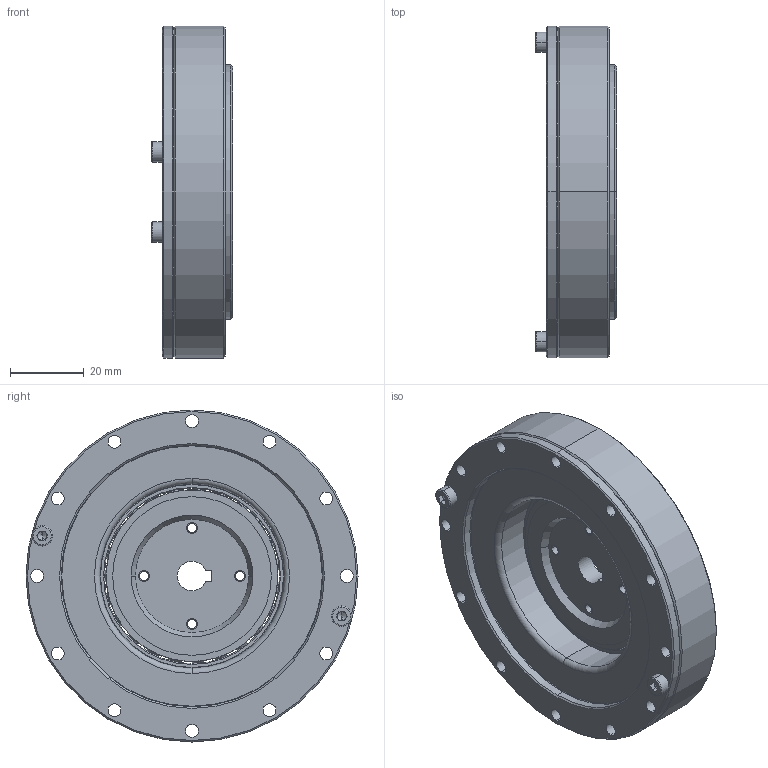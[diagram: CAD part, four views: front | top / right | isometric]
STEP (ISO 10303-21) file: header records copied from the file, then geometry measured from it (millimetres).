
FILE_DESCRIPTION((''),'2;1');
FILE_NAME('ASM0006_ASM','2020-02-24T',('Administrator'),(''),'PRO/ENGINEER BY PARAMETRIC TECHNOLOGY CORPORATION, 2014200','PRO/ENGINEER BY PARAMETRIC TECHNOLOGY CORPORATION, 2014200','');
FILE_SCHEMA(('AUTOMOTIVE_DESIGN { 1 0 10303 214 1 1 1 1 }'));
Length unit declared in the file: millimetre
Products named in the file (39): PRT0162; PRT0163; ASM0009_ASM; PRT0164; PRT0165; PRT0167; PRT0168; PRT0169; PRT0170; PRT0171; PRT0172; PRT0173; PRT0174; PRT0175; PRT0176; PRT0177; PRT0178; PRT0179; PRT0180; PRT0181; PRT0182; PRT0183; PRT0184; PRT0185; PRT0186; PRT0187; PRT0188; PRT0189; PRT0190; PRT0191; PRT0192; PRT0193; ASM0011_ASM; PRT0194; ASM0010_ASM; ASM0008_ASM; PRT0195; ASM0007_ASM; ASM0006_ASM
Assembly tree (45 placements, depth 6):
  ASM0006_ASM
    ASM0007_ASM
      ASM0008_ASM
        ASM0009_ASM
          PRT0162
          PRT0163
        PRT0164  x8
        PRT0165
        PRT0167
        PRT0168
        ASM0010_ASM
          ASM0011_ASM
            PRT0169
            PRT0170
            PRT0171
            PRT0172
            PRT0173
            PRT0174
            PRT0175
            PRT0176
            PRT0177
            PRT0178
            PRT0179
            PRT0180
            PRT0181
            PRT0182
            PRT0183
            PRT0184
            PRT0185
            PRT0186
            PRT0187
            PRT0188
            PRT0189
            PRT0190
            PRT0191
            PRT0192
            PRT0193
          PRT0194
      PRT0195
Bounding box: 22 x 90 x 90 mm (x, y, z)
Volume: 70989.8 mm3; surface area: 65503 mm2
Topology: 40 solids, 44 shells, 808 faces, 2015 edges, 1202 vertices
Faces by surface type: cylinder 330, plane 214, cone 108, sphere 92, torus 64
Entity records: 21216 total; most frequent: DIRECTION 3987, CARTESIAN_POINT 3312, ORIENTED_EDGE 2934, AXIS2_PLACEMENT_3D 1763, EDGE_CURVE 1475, CIRCLE 1014, VERTEX_POINT 971, EDGE_LOOP 782
